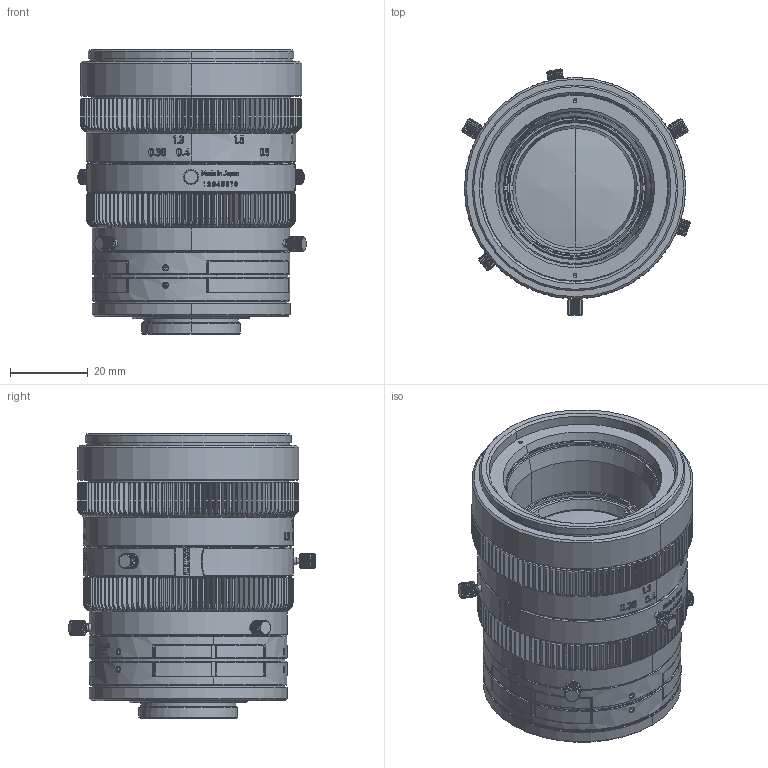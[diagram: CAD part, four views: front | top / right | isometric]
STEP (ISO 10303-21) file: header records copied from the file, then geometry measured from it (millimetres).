
FILE_DESCRIPTION((''),'2;1');
FILE_NAME('KPM-1015_ASSY_20171205_ASM','2017-12-15T',('zouwb'),('CARL ZEISS'),'PRO/ENGINEER BY PARAMETRIC TECHNOLOGY CORPORATION, 2015030','PRO/ENGINEER BY PARAMETRIC TECHNOLOGY CORPORATION, 2015030','');
FILE_SCHEMA(('AUTOMOTIVE_DESIGN { 1 0 10303 214 1 1 1 1 }'));
Products named in the file (45): FOCUS_LEVER; ____-______O__4_4_; ____-______O__4_5_; ____-______O__4_3_; ____1; ____-______O__4_2_; ____-______O__4_1_; ZEISS_LOGO_75_ASM; KPM-1015_182_INDEX_RING; KPM-1015_ASSY_MAIN_BARREL_ASM; KPM-1015_181_FOCUS_GEAR; KPM-1015_ASSY_FOCUS_GEAR_ASM; EEP_I___R_J_EEP3_5A; KPM-1015_201_C-MOUNT; KPM-1015_ASSY_MOUNT_ASM; KPM-1015_106_REAR_LENS_BARREL; KPM-1015_111_CENTERING_BARREL_C; KPM-1015_110_G10_CLAMP; KPM-1015_ASSY_REAR_LENS_BARREL_ASM; KPM-1015_102_G1_CLAMP; KPM-1015_101_FRONT_LENS_BARREL; KPM-1015_ASSY_FRONT_LENS_BARREL_ASM; KPM-1015_ASSY_LENS_BARREL_ASM; AEF_AEF3; KPM-1011_171_BF_BASE; KPM-1011_174_THREAD_RING_A; KPM-1011_177_FOAM_PAD_A; KPM-1011_175_THREAD_RING_B; KPM-1011_172_BF_EXTENSION_KPM-1; KPM-1011_176_FOAM_RING; KPM-1011_178_FOAM_PAD_B; KPM-1011_BFA_ASSY_50MM_P_ASM; KPM-1015_121_FRONT_MOVING_BARRE; KPM-1015_186_FRONT_FRAME; KPM-1015_187_DECORATIVE_RING; KPM-1015_ASSY_FRONT_MOVING_BARR_ASM; KPM-1015_G1; KPM-1015_FRONT_LENS_ASM; KPM-1015_G10; KPM-1015_REAR_LENS_ASM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
Assembly tree (58 placements, depth 5):
  KPM-1015_ASSY_20171205_ASM
    KPM-1015_ASSY_ASM
      KPM-1015_ASSY_MAIN_BARREL_ASM
        FOCUS_LEVER  x3
        ZEISS_LOGO_75_ASM  x2
          ____-______O__4_4_
          ____-______O__4_5_
          ____-______O__4_3_
          ____1
          ____-______O__4_2_
          ____-______O__4_1_
        KPM-1015_182_INDEX_RING
      KPM-1015_ASSY_FOCUS_GEAR_ASM
        KPM-1015_181_FOCUS_GEAR
      KPM-1015_ASSY_MOUNT_ASM
        EEP_I___R_J_EEP3_5A  x4
        KPM-1015_201_C-MOUNT
      KPM-1015_ASSY_LENS_BARREL_ASM
        KPM-1015_ASSY_REAR_LENS_BARREL_ASM
          KPM-1015_106_REAR_LENS_BARREL
          KPM-1015_111_CENTERING_BARREL_C
          KPM-1015_110_G10_CLAMP
        KPM-1015_ASSY_FRONT_LENS_BARREL_ASM
          KPM-1015_102_G1_CLAMP
          KPM-1015_101_FRONT_LENS_BARREL
      KPM-1011_BFA_ASSY_50MM_P_ASM
        AEF_AEF3  x6
        KPM-1011_171_BF_BASE
        KPM-1011_174_THREAD_RING_A
        KPM-1011_177_FOAM_PAD_A
        KPM-1011_175_THREAD_RING_B
        KPM-1011_172_BF_EXTENSION_KPM-1
        KPM-1011_176_FOAM_RING
        KPM-1011_178_FOAM_PAD_B
      KPM-1015_ASSY_FRONT_MOVING_BARR_ASM
        KPM-1015_121_FRONT_MOVING_BARRE
        KPM-1015_186_FRONT_FRAME
        KPM-1015_187_DECORATIVE_RING
      KPM-1015_LENS_ASM
        KPM-1015_FRONT_LENS_ASM
          KPM-1015_G1
        KPM-1015_REAR_LENS_ASM
          KPM-1015_G10
      KPM-1015_ASSY_APERTURE_GEAR_ASM
        FOCUS_LEVER  x3
        KPM-1015_183_APERTURE_GEAR
Bounding box: 58.83 x 63.48 x 73.27 mm (x, y, z)
Volume: 58073.3 mm3; surface area: 82563.7 mm2
Topology: 49 solids, 49 shells, 5589 faces, 15452 edges, 10168 vertices
Faces by surface type: cylinder 1534, plane 1450, bspline 1275, cone 595, extrusion 495, torus 234, sphere 6
Entity records: 247005 total; most frequent: CARTESIAN_POINT 125348, ORIENTED_EDGE 26360, DIRECTION 18943, EDGE_CURVE 13180, VERTEX_POINT 8698, AXIS2_PLACEMENT_3D 6836, VECTOR 5271, B_SPLINE_CURVE_WITH_KNOTS 5190
